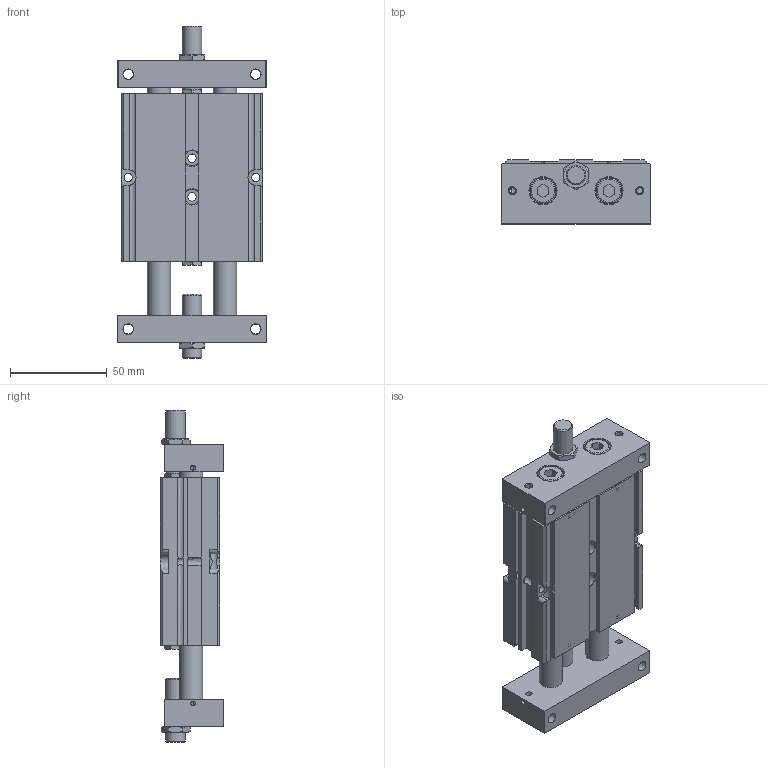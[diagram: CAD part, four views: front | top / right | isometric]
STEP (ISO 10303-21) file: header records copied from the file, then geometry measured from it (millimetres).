
FILE_DESCRIPTION((''),'2;1');
FILE_NAME('I:\3D電子目錄\氣缸\STU\STU\STU25\STU25x25.stp','2007-10-01T11:38:57',('Administrator'),(''),'Autodesk Inventor 11','Autodesk Inventor 11','');
FILE_SCHEMA(('AUTOMOTIVE_DESIGN { 1 0 10303 214 1 1 1 1 }'));
Length unit declared in the file: millimetre
Products named in the file (1): STU25
Bounding box: 77 x 33 x 172 mm (x, y, z)
Volume: 244045.7 mm3; surface area: 55758.7 mm2
Topology: 1 solids, 1 shells, 350 faces, 884 edges, 559 vertices
Faces by surface type: plane 163, cone 81, bspline 58, cylinder 44, torus 4
Full cylindrical faces by diameter (mm): 2.459 x2, 8 x2, 10 x4, 12 x2, 13 x4, 14 x4, 28 x2, 29.6 x2
Entity records: 11234 total; most frequent: CARTESIAN_POINT 3730, ORIENTED_EDGE 1484, DIRECTION 1462, EDGE_CURVE 742, AXIS2_PLACEMENT_3D 555, EDGE_LOOP 530, VERTEX_POINT 522, VECTOR 352
